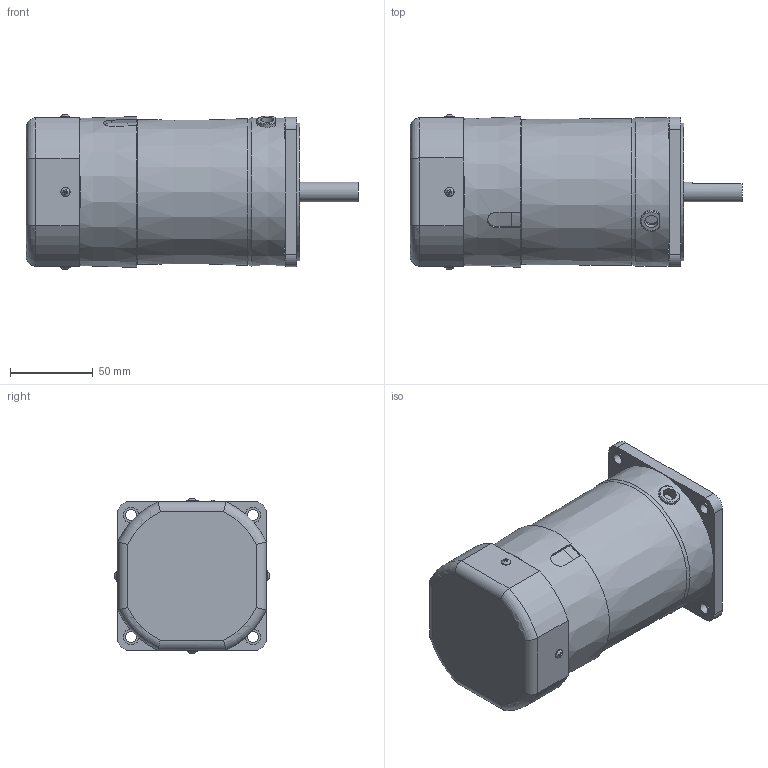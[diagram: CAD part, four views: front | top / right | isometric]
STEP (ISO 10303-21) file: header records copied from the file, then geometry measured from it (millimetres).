
FILE_DESCRIPTION((''),'2;1');
FILE_NAME('D:\김성묵\업무폴더\개발 파일\프로젝트 개발 AB등급\AC표준형 개발자료\90각 이하 표준형 개발\도면작성 자료\3D 도면\홈페이지용 3D 파일\60W MOTOR\BLACK TYPE\S9I60D-E.stp','2015-03-26T13:07:29',('smkim'),(''),'Autodesk Inventor 2012','Autodesk Inventor 2012','');
FILE_SCHEMA(('AUTOMOTIVE_DESIGN { 1 0 10303 214 1 1 1 1 }'));
Length unit declared in the file: millimetre
Products named in the file (7): S9I60D-E; S9I60GㅁCE; 6_CORD BUSH; 552300620; FAN COVER; S9I60D; 60W 전자BK COVER
Assembly tree (9 placements, depth 2):
  S9I60D-E
    S9I60GㅁCE
    6_CORD BUSH
    552300620  x4
    FAN COVER
    S9I60D
    60W 전자BK COVER
Bounding box: 200.3 x 93.49 x 93.49 mm (x, y, z)
Volume: 1174969.4 mm3; surface area: 117049.2 mm2
Topology: 9 solids, 10 shells, 243 faces, 566 edges, 367 vertices
Faces by surface type: plane 150, cylinder 61, cone 14, torus 14, bspline 4
Full cylindrical faces by diameter (mm): 3 x8, 3.5 x4, 5.6 x4, 6.5 x4, 8 x1, 9.5 x4, 10 x1, 12 x1, 28 x1, 34 x1, 40 x1, 60 x1, 66 x1, 80 x1, 83 x1, 86 x2, 86.3 x1
Entity records: 5440 total; most frequent: CARTESIAN_POINT 1285, DIRECTION 844, ORIENTED_EDGE 724, EDGE_CURVE 362, AXIS2_PLACEMENT_3D 332, VERTEX_POINT 263, EDGE_LOOP 263, FACE_OUTER_BOUND 180
